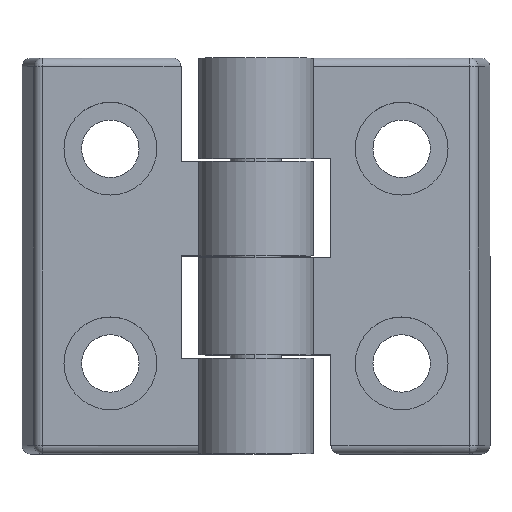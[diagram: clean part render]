
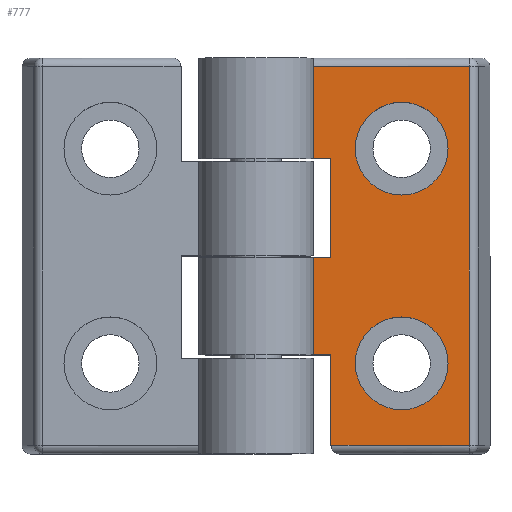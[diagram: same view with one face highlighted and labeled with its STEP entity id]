
A CAD part, top view. The second image highlights one B-rep face of the part: STEP entity #777.
In plain terms, the highlighted planar face has unit normal (0, 0, 1).
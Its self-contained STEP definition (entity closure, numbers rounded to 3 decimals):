
#1 = CARTESIAN_POINT ( 'NONE',  ( 7.67, -21.4, 4. ) ) ;
#37 = CARTESIAN_POINT ( 'NONE',  ( 5.25, -12.15, 4. ) ) ;
#45 = EDGE_CURVE ( 'NONE', #3559, #3762, #1548, .T. ) ;
#123 = ORIENTED_EDGE ( 'NONE', *, *, #3003, .T. ) ;
#182 = DIRECTION ( 'NONE',  ( 0., 0., 1. ) ) ;
#195 = CARTESIAN_POINT ( 'NONE',  ( -5.25, 12.15, 4. ) ) ;
#211 = CARTESIAN_POINT ( 'NONE',  ( 0., 12.15, 4. ) ) ;
#226 = AXIS2_PLACEMENT_3D ( 'NONE', #3412, #3002, #1608 ) ;
#259 = LINE ( 'NONE', #2931, #312 ) ;
#264 = CIRCLE ( 'NONE', #976, 5.25 ) ;
#266 = CARTESIAN_POINT ( 'NONE',  ( -10., -0.2, 4. ) ) ;
#311 = DIRECTION ( 'NONE',  ( 1., 0., 0. ) ) ;
#312 = VECTOR ( 'NONE', #1465, 1000. ) ;
#322 = VERTEX_POINT ( 'NONE', #2673 ) ;
#324 = VERTEX_POINT ( 'NONE', #2923 ) ;
#389 = CARTESIAN_POINT ( 'NONE',  ( 7.67, 0., 4. ) ) ;
#410 = ORIENTED_EDGE ( 'NONE', *, *, #1968, .T. ) ;
#445 = CARTESIAN_POINT ( 'NONE',  ( -10., -11.2, 4. ) ) ;
#504 = EDGE_LOOP ( 'NONE', ( #1449, #2542 ) ) ;
#571 = DIRECTION ( 'NONE',  ( 1., 0., 0. ) ) ;
#591 = DIRECTION ( 'NONE',  ( 1., 0., 0. ) ) ;
#617 = PLANE ( 'NONE',  #226 ) ;
#650 = DIRECTION ( 'NONE',  ( 0., 0., -1. ) ) ;
#659 = CARTESIAN_POINT ( 'NONE',  ( 0., -12.15, 4. ) ) ;
#777 = ADVANCED_FACE ( 'NONE', ( #1638, #919, #1274 ), #617, .T. ) ;
#831 = CIRCLE ( 'NONE', #1350, 5.25 ) ;
#899 = VERTEX_POINT ( 'NONE', #37 ) ;
#919 = FACE_BOUND ( 'NONE', #504, .T. ) ;
#976 = AXIS2_PLACEMENT_3D ( 'NONE', #2363, #1949, #571 ) ;
#1023 = CARTESIAN_POINT ( 'NONE',  ( 8.5, -21.4, 4. ) ) ;
#1137 = ORIENTED_EDGE ( 'NONE', *, *, #3833, .T. ) ;
#1150 = CARTESIAN_POINT ( 'NONE',  ( -5.25, -12.15, 4. ) ) ;
#1274 = FACE_OUTER_BOUND ( 'NONE', #3746, .T. ) ;
#1283 = CIRCLE ( 'NONE', #1806, 5.25 ) ;
#1350 = AXIS2_PLACEMENT_3D ( 'NONE', #659, #650, #591 ) ;
#1371 = LINE ( 'NONE', #3695, #1382 ) ;
#1382 = VECTOR ( 'NONE', #3720, 1000. ) ;
#1405 = ORIENTED_EDGE ( 'NONE', *, *, #1763, .T. ) ;
#1449 = ORIENTED_EDGE ( 'NONE', *, *, #3268, .F. ) ;
#1465 = DIRECTION ( 'NONE',  ( 0., -1., 0. ) ) ;
#1502 = ORIENTED_EDGE ( 'NONE', *, *, #45, .F. ) ;
#1524 = DIRECTION ( 'NONE',  ( 0., 1., 0. ) ) ;
#1548 = LINE ( 'NONE', #3491, #1755 ) ;
#1550 = CIRCLE ( 'NONE', #1621, 5.25 ) ;
#1583 = CARTESIAN_POINT ( 'NONE',  ( -8., -11.2, 4. ) ) ;
#1597 = ORIENTED_EDGE ( 'NONE', *, *, #2810, .T. ) ;
#1608 = DIRECTION ( 'NONE',  ( 1., 0., 0. ) ) ;
#1621 = AXIS2_PLACEMENT_3D ( 'NONE', #2849, #2855, #2865 ) ;
#1632 = CARTESIAN_POINT ( 'NONE',  ( -10., 22.4, 4. ) ) ;
#1638 = FACE_BOUND ( 'NONE', #3580, .T. ) ;
#1682 = VERTEX_POINT ( 'NONE', #3796 ) ;
#1700 = DIRECTION ( 'NONE',  ( 1., 0., 0. ) ) ;
#1701 = VERTEX_POINT ( 'NONE', #1583 ) ;
#1755 = VECTOR ( 'NONE', #1700, 1000. ) ;
#1763 = EDGE_CURVE ( 'NONE', #2082, #1701, #3729, .T. ) ;
#1806 = AXIS2_PLACEMENT_3D ( 'NONE', #211, #182, #311 ) ;
#1809 = EDGE_CURVE ( 'NONE', #1682, #322, #3715, .T. ) ;
#1834 = CARTESIAN_POINT ( 'NONE',  ( 0., -11.2, 4. ) ) ;
#1853 = VECTOR ( 'NONE', #1882, 1000. ) ;
#1871 = EDGE_CURVE ( 'NONE', #322, #3177, #3670, .T. ) ;
#1882 = DIRECTION ( 'NONE',  ( 0., -1., 0. ) ) ;
#1890 = VERTEX_POINT ( 'NONE', #195 ) ;
#1896 = CARTESIAN_POINT ( 'NONE',  ( -8., 0., 4. ) ) ;
#1917 = LINE ( 'NONE', #1896, #1853 ) ;
#1949 = DIRECTION ( 'NONE',  ( 0., 0., 1. ) ) ;
#1968 = EDGE_CURVE ( 'NONE', #3029, #3820, #3484, .T. ) ;
#1986 = DIRECTION ( 'NONE',  ( -1., 0., 0. ) ) ;
#2028 = EDGE_CURVE ( 'NONE', #3559, #2082, #3415, .T. ) ;
#2082 = VERTEX_POINT ( 'NONE', #445 ) ;
#2122 = ORIENTED_EDGE ( 'NONE', *, *, #3479, .T. ) ;
#2178 = ORIENTED_EDGE ( 'NONE', *, *, #1809, .T. ) ;
#2202 = DIRECTION ( 'NONE',  ( 0., -1., 0. ) ) ;
#2291 = EDGE_CURVE ( 'NONE', #3820, #1682, #2867, .T. ) ;
#2363 = CARTESIAN_POINT ( 'NONE',  ( 0., 12.15, 4. ) ) ;
#2390 = VERTEX_POINT ( 'NONE', #1150 ) ;
#2542 = ORIENTED_EDGE ( 'NONE', *, *, #3858, .F. ) ;
#2547 = ORIENTED_EDGE ( 'NONE', *, *, #3205, .T. ) ;
#2673 = CARTESIAN_POINT ( 'NONE',  ( -10., 21.4, 4. ) ) ;
#2716 = ORIENTED_EDGE ( 'NONE', *, *, #2028, .T. ) ;
#2722 = CARTESIAN_POINT ( 'NONE',  ( -10., 22.4, 4. ) ) ;
#2745 = ORIENTED_EDGE ( 'NONE', *, *, #2291, .T. ) ;
#2810 = EDGE_CURVE ( 'NONE', #1701, #3029, #1917, .T. ) ;
#2840 = CARTESIAN_POINT ( 'NONE',  ( -8., -21.4, 4. ) ) ;
#2849 = CARTESIAN_POINT ( 'NONE',  ( 0., -12.15, 4. ) ) ;
#2852 = DIRECTION ( 'NONE',  ( 1., 0., 0. ) ) ;
#2853 = VECTOR ( 'NONE', #1524, 1000. ) ;
#2855 = DIRECTION ( 'NONE',  ( 0., 0., -1. ) ) ;
#2863 = CARTESIAN_POINT ( 'NONE',  ( -10., 21.4, 4. ) ) ;
#2865 = DIRECTION ( 'NONE',  ( 1., 0., 0. ) ) ;
#2867 = LINE ( 'NONE', #389, #2853 ) ;
#2923 = CARTESIAN_POINT ( 'NONE',  ( -8., 11., 4. ) ) ;
#2931 = CARTESIAN_POINT ( 'NONE',  ( -8., 0., 4. ) ) ;
#2975 = CARTESIAN_POINT ( 'NONE',  ( -8., -0.2, 4. ) ) ;
#3002 = DIRECTION ( 'NONE',  ( 0., 0., 1. ) ) ;
#3003 = EDGE_CURVE ( 'NONE', #2390, #899, #1550, .T. ) ;
#3009 = CARTESIAN_POINT ( 'NONE',  ( 5.25, 12.15, 4. ) ) ;
#3029 = VERTEX_POINT ( 'NONE', #2840 ) ;
#3035 = VERTEX_POINT ( 'NONE', #3009 ) ;
#3073 = ORIENTED_EDGE ( 'NONE', *, *, #1871, .T. ) ;
#3177 = VERTEX_POINT ( 'NONE', #3597 ) ;
#3205 = EDGE_CURVE ( 'NONE', #3177, #324, #1371, .T. ) ;
#3258 = DIRECTION ( 'NONE',  ( 0., -1., 0. ) ) ;
#3268 = EDGE_CURVE ( 'NONE', #3035, #1890, #1283, .T. ) ;
#3303 = DIRECTION ( 'NONE',  ( 1., 0., 0. ) ) ;
#3369 = VECTOR ( 'NONE', #3258, 1000. ) ;
#3412 = CARTESIAN_POINT ( 'NONE',  ( 0., 0., 4. ) ) ;
#3415 = LINE ( 'NONE', #2722, #3369 ) ;
#3476 = VECTOR ( 'NONE', #3303, 1000. ) ;
#3479 = EDGE_CURVE ( 'NONE', #899, #2390, #831, .T. ) ;
#3484 = LINE ( 'NONE', #1023, #3476 ) ;
#3491 = CARTESIAN_POINT ( 'NONE',  ( 0., -0.2, 4. ) ) ;
#3559 = VERTEX_POINT ( 'NONE', #266 ) ;
#3580 = EDGE_LOOP ( 'NONE', ( #2122, #123 ) ) ;
#3586 = VECTOR ( 'NONE', #2202, 1000. ) ;
#3597 = CARTESIAN_POINT ( 'NONE',  ( -10., 11., 4. ) ) ;
#3670 = LINE ( 'NONE', #1632, #3586 ) ;
#3675 = VECTOR ( 'NONE', #1986, 1000. ) ;
#3695 = CARTESIAN_POINT ( 'NONE',  ( 0., 11., 4. ) ) ;
#3715 = LINE ( 'NONE', #2863, #3675 ) ;
#3720 = DIRECTION ( 'NONE',  ( 1., 0., 0. ) ) ;
#3722 = VECTOR ( 'NONE', #2852, 1000. ) ;
#3729 = LINE ( 'NONE', #1834, #3722 ) ;
#3746 = EDGE_LOOP ( 'NONE', ( #2745, #2178, #3073, #2547, #1137, #1502, #2716, #1405, #1597, #410 ) ) ;
#3762 = VERTEX_POINT ( 'NONE', #2975 ) ;
#3796 = CARTESIAN_POINT ( 'NONE',  ( 7.67, 21.4, 4. ) ) ;
#3820 = VERTEX_POINT ( 'NONE', #1 ) ;
#3833 = EDGE_CURVE ( 'NONE', #324, #3762, #259, .T. ) ;
#3858 = EDGE_CURVE ( 'NONE', #1890, #3035, #264, .T. ) ;
